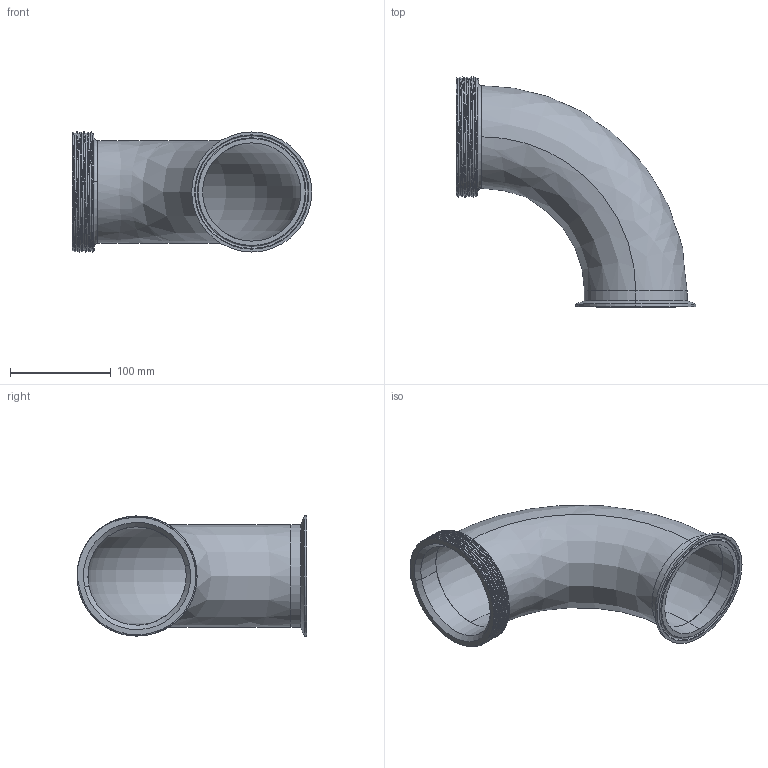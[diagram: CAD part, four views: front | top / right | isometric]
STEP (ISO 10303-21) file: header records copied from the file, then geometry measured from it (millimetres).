
FILE_DESCRIPTION (( 'STEP AP203' ), '1' );
FILE_NAME ('EG2FTR4.0.STEP', '2018-05-07T13:46:05', ( 'vneprd' ), ( 'Microsoft' ), 'SwSTEP 2.0', 'SolidWorks 2014', '' );
FILE_SCHEMA (( 'CONFIG_CONTROL_DESIGN' ));
Length unit declared in the file: inch
Products named in the file (4): 15TR4.0; 2WCL4.0; EG2FTR4.0; EG2CS4.0
Assembly tree (3 placements, depth 2):
  EG2FTR4.0
    2WCL4.0
    15TR4.0
    EG2CS4.0
Bounding box: 237.26 x 227.7 x 118.92 mm (x, y, z)
Volume: 253765 mm3; surface area: 194131.2 mm2
Topology: 3 solids, 3 shells, 54 faces, 124 edges, 78 vertices
Faces by surface type: cylinder 24, plane 10, bspline 8, torus 8, cone 4
Entity records: 14736 total; most frequent: CARTESIAN_POINT 13175, ORIENTED_EDGE 248, DIRECTION 237, EDGE_CURVE 124, AXIS2_PLACEMENT_3D 100, VERTEX_POINT 78, EDGE_LOOP 62, FACE_OUTER_BOUND 54
